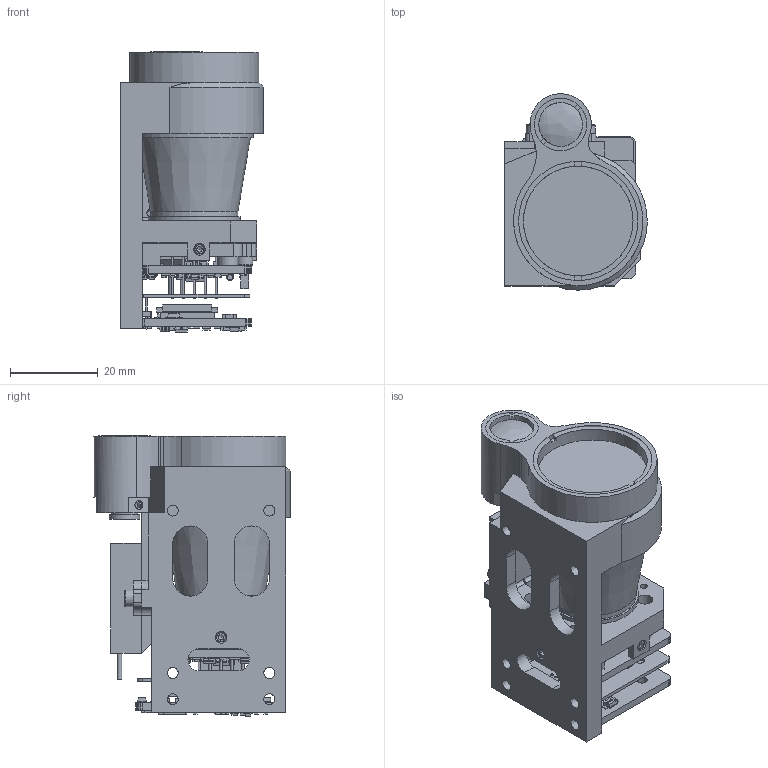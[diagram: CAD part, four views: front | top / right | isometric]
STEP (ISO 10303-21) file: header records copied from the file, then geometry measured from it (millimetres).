
FILE_DESCRIPTION (( 'STEP AP214' ), '1' );
FILE_NAME ('GTX3.0-25X（20231215）(一体式).STEP', '2023-12-14T23:48:08', ( 'Microsoft' ), ( 'Microsoft' ), 'SwSTEP 2.0', 'SolidWorks 2020', '' );
FILE_SCHEMA (( 'AUTOMOTIVE_DESIGN' ));
Length unit declared in the file: millimetre
Products named in the file (315): R0603(BP-1______)(alongside)^R4(BP-1______)(alongside)_BP1-V2-______-11.STEP.STEP.STEP.STEP.STEP; R0603(BP-1______)(alongside)^R18(BP-1______)(alongside)_BP1-V2-_______2.STEP.STEP.STEP.STEP.STEP; R0603(BP-1______)(alongside)^R2(BP-1______)(alongside)_BP1-V2-______-10.STEP.STEP.STEP.STEP.STEP; R0603_2(BP-1______)(alongside)^R1_2(BP-1______)(alongside)_BP-1-QD-V2-3(BP-1______)(alongside)_Free-Models(BP-1______)(alongside)_BP1-V2-_______2.STEP.STEP.STEP.STEP.STEP; ________20221225.STEP.STEP.STEP.STEP.STEP; C1(BP-1______)(alongside)^BP1-V2-______.STEP.STEP.STEP.STEP.STEP; R19(BP-1______)(alongside)^BP1-V2-______.STEP.STEP.STEP.STEP.STEP; R0603(BP-1______)(alongside)^R5(BP-1______)(alongside)_BP1-V2-______.STEP.STEP.STEP.STEP.STEP; CAP0402(BP-1______)(alongside)^C17(BP-1______)(alongside)_BP1-V2-______.STEP.STEP.STEP.STEP.STEP; R1206(BP-1______)(alongside)^R15_3(BP-1______)(alongside)_BP-1-QD-V2-3(BP-1______)(alongside)_Free-Models(BP-1______)(alongside)_BP1-V2-_______2.STEP.STEP.STEP.STEP.STEP; CAP_0603(1608)(BP-1______)(alongside)^C19(BP-1______)(alongside)_BP1-V2-______.STEP.STEP.STEP.STEP.STEP; R0603(BP-1______)(alongside)^R22(BP-1______)(alongside)_BP1-V2-______-22.STEP.STEP.STEP.STEP.STEP; R0603(BP-1______)(alongside)^R9(BP-1______)(alongside)_BP1-V2-______-14.STEP.STEP.STEP.STEP.STEP; R0603(BP-1______)(alongside)^R5(BP-1______)(alongside)_BP1-V2-_______2.STEP.STEP.STEP.STEP.STEP; SOT-26A-6(BP-1______)(alongside)^D3(BP-1______)(alongside)_BP1-V2-______.STEP.STEP.STEP.STEP.STEP; R0603_2(BP-1______)(alongside)^R13(BP-1______)(alongside)_BP-1-QD-V2-3(BP-1______)(alongside)_Free-Models(BP-1______)(alongside)_BP1-V2-______.STEP.STEP.STEP.STEP.STEP; R8(BP-1______)(alongside)^BP1-V2-______.STEP.STEP.STEP.STEP.STEP; R0603(BP-1______)(alongside)^R3(BP-1______)(alongside)_BP1-V2-______-17.STEP.STEP.STEP.STEP.STEP; ________________.STEP.STEP.STEP.STEP.STEP; APD-GD6510Y(BP-1______)(alongside)^APD(BP-1______)(alongside)_BP1-V2-______.STEP.STEP.STEP.STEP.STEP; CT2(BP-1______)(alongside)^BP1-V2-______.STEP.STEP.STEP.STEP.STEP; R0603_2(BP-1______)(alongside)^R12_2(BP-1______)(alongside)_BP-1-QD-V2-3(BP-1______)(alongside)_Free-Models(BP-1______)(alongside)_BP1-V2-______.STEP.STEP.STEP.STEP.STEP; U2_2(BP-1______)(alongside)^BP-1-QD-V2-3(BP-1______)(alongside)_Free-Models(BP-1______)(alongside)_BP1-V2-______.STEP.STEP.STEP.STEP.STEP; R0603(BP-1______)(alongside)^R2(BP-1______)(alongside)_BP1-V2-_______2.STEP.STEP.STEP.STEP.STEP; R0603_2(BP-1______)(alongside)^R10_3(BP-1______)(alongside)_BP-1-QD-V2-3(BP-1______)(alongside)_Free-Models(BP-1______)(alongside)_BP1-V2-______-35.STEP.STEP.STEP.STEP.STEP; R0603_2(BP-1______)(alongside)^R4_2(BP-1______)(alongside)_BP-1-QD-V2-3(BP-1______)(alongside)_Free-Models(BP-1______)(alongside)_BP1-V2-______.STEP.STEP.STEP.STEP.STEP; Pad008(BP-1______)(alongside)^DFN8-5X6(BP-1______)(alongside)_D5_2(BP-1______)(alongside)_BP-1-QD-V2-3(BP-1______)(alongside)_Free-Models(BP-1______)(alongside)_BP1-V2-______.STEP.STEP.STEP.STEP.STEP; Board(BP-1______)(alongside)^BP1-V2-______.STEP.STEP.STEP.STEP.STEP; R0603(BP-1______)(alongside)^R11(BP-1______)(alongside)_BP1-V2-______-12.STEP.STEP.STEP.STEP.STEP; R0603_2(BP-1______)(alongside)^Rs(BP-1______)(alongside)_BP-1-QD-V2-3(BP-1______)(alongside)_Free-Models(BP-1______)(alongside)_BP1-V2-______.STEP.STEP.STEP.STEP.STEP; Header__1X7-1.27-3D____(BP-1______)(alongside)^XS1(BP-1______)(alongside)_BP1-V2-______.STEP.STEP.STEP.STEP.STEP; APD(BP-1______)(alongside)^BP1-V2-______.STEP.STEP.STEP.STEP.STEP; C3(BP-1______)(alongside)^BP1-V2-______.STEP.STEP.STEP.STEP.STEP; Board_2(BP-1______)(alongside)^154-3225______V1(BP-1______)(alongside)_Free-Models(BP-1______)(alongside)_BP1-V2-______.STEP.STEP.STEP.STEP.STEP; ________.STEP.STEP.STEP.STEP.STEP; R0603(BP-1______)(alongside)^R6(BP-1______)(alongside)_BP1-V2-______-15.STEP.STEP.STEP.STEP.STEP; C02(BP-1______)(alongside)^BP-1-QD-V2-3(BP-1______)(alongside)_Free-Models(BP-1______)(alongside)_BP1-V2-______.STEP.STEP.STEP.STEP.STEP; Pad001(BP-1______)(alongside)^DFN8-5X6(BP-1______)(alongside)_D5_2(BP-1______)(alongside)_BP-1-QD-V2-3(BP-1______)(alongside)_Free-Models(BP-1______)(alongside)_BP1-V2-______.STEP.STEP.STEP.STEP.STEP; C20(BP-1______)(alongside)^BP1-V2-______.STEP.STEP.STEP.STEP.STEP; ______-SOD123W(BP-1______)(alongside)^D2_3(BP-1______)(alongside)_BP-1-QD-V2-3(BP-1______)(alongside)_Free-Models(BP-1______)(alongside)_BP1-V2-______.STEP.STEP.STEP.STEP.STEP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
Assembly tree (327 placements, depth 7):
  GTX3.0-25X（20231215）(一体式)
    BP1-V2-______.STEP.STEP.STEP.STEP.STEP
      C21(BP-1______)(alongside)^BP1-V2-______.STEP.STEP.STEP.STEP.STEP
        CAP_0603(1608)(BP-1______)(alongside)^C21(BP-1______)(alongside)_BP1-V2-______.STEP.STEP.STEP.STEP.STEP
      RS4(BP-1______)(alongside)^BP1-V2-______.STEP.STEP.STEP.STEP.STEP
        R0603(BP-1______)(alongside)^RS4(BP-1______)(alongside)_BP1-V2-______.STEP.STEP.STEP.STEP.STEP
          R0603(BP-1______)(alongside)^RS4(BP-1______)(alongside)_BP1-V2-______-0.STEP.STEP.STEP.STEP.STEP
          R0603(BP-1______)(alongside)^RS4(BP-1______)(alongside)_BP1-V2-_______2.STEP.STEP.STEP.STEP.STEP
      RS3(BP-1______)(alongside)^BP1-V2-______.STEP.STEP.STEP.STEP.STEP
        R0603(BP-1______)(alongside)^RS3(BP-1______)(alongside)_BP1-V2-______.STEP.STEP.STEP.STEP.STEP
          R0603(BP-1______)(alongside)^RS3(BP-1______)(alongside)_BP1-V2-______-1.STEP.STEP.STEP.STEP.STEP
          R0603(BP-1______)(alongside)^RS3(BP-1______)(alongside)_BP1-V2-_______2.STEP.STEP.STEP.STEP.STEP
      RS2(BP-1______)(alongside)^BP1-V2-______.STEP.STEP.STEP.STEP.STEP
        R0603(BP-1______)(alongside)^RS2(BP-1______)(alongside)_BP1-V2-______.STEP.STEP.STEP.STEP.STEP
          R0603(BP-1______)(alongside)^RS2(BP-1______)(alongside)_BP1-V2-_______2.STEP.STEP.STEP.STEP.STEP
          R0603(BP-1______)(alongside)^RS2(BP-1______)(alongside)_BP1-V2-______-2.STEP.STEP.STEP.STEP.STEP
      R0(BP-1______)(alongside)^BP1-V2-______.STEP.STEP.STEP.STEP.STEP
        R0603(BP-1______)(alongside)^R0(BP-1______)(alongside)_BP1-V2-______.STEP.STEP.STEP.STEP.STEP
          R0603(BP-1______)(alongside)^R0(BP-1______)(alongside)_BP1-V2-______-3.STEP.STEP.STEP.STEP.STEP
          R0603(BP-1______)(alongside)^R0(BP-1______)(alongside)_BP1-V2-_______2.STEP.STEP.STEP.STEP.STEP
      APD(BP-1______)(alongside)^BP1-V2-______.STEP.STEP.STEP.STEP.STEP
        APD-GD6510Y(BP-1______)(alongside)^APD(BP-1______)(alongside)_BP1-V2-______.STEP.STEP.STEP.STEP.STEP
      R5(BP-1______)(alongside)^BP1-V2-______.STEP.STEP.STEP.STEP.STEP
        R0603(BP-1______)(alongside)^R5(BP-1______)(alongside)_BP1-V2-______.STEP.STEP.STEP.STEP.STEP
          R0603(BP-1______)(alongside)^R5(BP-1______)(alongside)_BP1-V2-______-4.STEP.STEP.STEP.STEP.STEP
          R0603(BP-1______)(alongside)^R5(BP-1______)(alongside)_BP1-V2-_______2.STEP.STEP.STEP.STEP.STEP
      C6(BP-1______)(alongside)^BP1-V2-______.STEP.STEP.STEP.STEP.STEP
        CAP_0603(1608)(BP-1______)(alongside)^C6(BP-1______)(alongside)_BP1-V2-______.STEP.STEP.STEP.STEP.STEP
      R15(BP-1______)(alongside)^BP1-V2-______.STEP.STEP.STEP.STEP.STEP
        R0603(BP-1______)(alongside)^R15(BP-1______)(alongside)_BP1-V2-______.STEP.STEP.STEP.STEP.STEP
          R0603(BP-1______)(alongside)^R15(BP-1______)(alongside)_BP1-V2-_______2.STEP.STEP.STEP.STEP.STEP
          R0603(BP-1______)(alongside)^R15(BP-1______)(alongside)_BP1-V2-______-5.STEP.STEP.STEP.STEP.STEP
      C3(BP-1______)(alongside)^BP1-V2-______.STEP.STEP.STEP.STEP.STEP
        CAP_0603(1608)(BP-1______)(alongside)^C3(BP-1______)(alongside)_BP1-V2-______.STEP.STEP.STEP.STEP.STEP
      C4(BP-1______)(alongside)^BP1-V2-______.STEP.STEP.STEP.STEP.STEP
        CAP_0603(1608)(BP-1______)(alongside)^C4(BP-1______)(alongside)_BP1-V2-______.STEP.STEP.STEP.STEP.STEP
      D5(BP-1______)(alongside)^BP1-V2-______.STEP.STEP.STEP.STEP.STEP
        User_Library-SOT23-5-2(BP-1______)(alongside)^D5(BP-1______)(alongside)_BP1-V2-______.STEP.STEP.STEP.STEP.STEP
      R8(BP-1______)(alongside)^BP1-V2-______.STEP.STEP.STEP.STEP.STEP
        R0603(BP-1______)(alongside)^R8(BP-1______)(alongside)_BP1-V2-______.STEP.STEP.STEP.STEP.STEP
          R0603(BP-1______)(alongside)^R8(BP-1______)(alongside)_BP1-V2-_______2.STEP.STEP.STEP.STEP.STEP
          R0603(BP-1______)(alongside)^R8(BP-1______)(alongside)_BP1-V2-______-6.STEP.STEP.STEP.STEP.STEP
      R7(BP-1______)(alongside)^BP1-V2-______.STEP.STEP.STEP.STEP.STEP
        R0603(BP-1______)(alongside)^R7(BP-1______)(alongside)_BP1-V2-______.STEP.STEP.STEP.STEP.STEP
          R0603(BP-1______)(alongside)^R7(BP-1______)(alongside)_BP1-V2-_______2.STEP.STEP.STEP.STEP.STEP
          R0603(BP-1______)(alongside)^R7(BP-1______)(alongside)_BP1-V2-______-7.STEP.STEP.STEP.STEP.STEP
      R10(BP-1______)(alongside)^BP1-V2-______.STEP.STEP.STEP.STEP.STEP
        R0603(BP-1______)(alongside)^R10(BP-1______)(alongside)_BP1-V2-______.STEP.STEP.STEP.STEP.STEP
          R0603(BP-1______)(alongside)^R10(BP-1______)(alongside)_BP1-V2-______-8.STEP.STEP.STEP.STEP.STEP
          R0603(BP-1______)(alongside)^R10(BP-1______)(alongside)_BP1-V2-_______2.STEP.STEP.STEP.STEP.STEP
      D1(BP-1______)(alongside)^BP1-V2-______.STEP.STEP.STEP.STEP.STEP
        SOIC-8(BP-1______)(alongside)^D1(BP-1______)(alongside)_BP1-V2-______.STEP.STEP.STEP.STEP.STEP
      R1(BP-1______)(alongside)^BP1-V2-______.STEP.STEP.STEP.STEP.STEP
        R0603(BP-1______)(alongside)^R1(BP-1______)(alongside)_BP1-V2-______.STEP.STEP.STEP.STEP.STEP
          R0603(BP-1______)(alongside)^R1(BP-1______)(alongside)_BP1-V2-______-9.STEP.STEP.STEP.STEP.STEP
          R0603(BP-1______)(alongside)^R1(BP-1______)(alongside)_BP1-V2-_______2.STEP.STEP.STEP.STEP.STEP
      C8(BP-1______)(alongside)^BP1-V2-______.STEP.STEP.STEP.STEP.STEP
        CAP0402(BP-1______)(alongside)^C8(BP-1______)(alongside)_BP1-V2-______.STEP.STEP.STEP.STEP.STEP
      Q1(BP-1______)(alongside)^BP1-V2-______.STEP.STEP.STEP.STEP.STEP
        ______-SOT23-3(BP-1______)(alongside)^Q1(BP-1______)(alongside)_BP1-V2-______.STEP.STEP.STEP.STEP.STEP
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Bounding box: 32.49 x 44.74 x 63.83 mm (x, y, z)
Surface area: 35310.9 mm2 (no closed solid volume)
Topology: 0 solids, 192 shells, 6094 faces, 15293 edges, 10039 vertices
Faces by surface type: plane 3377, bspline 2072, cylinder 570, cone 75
Full cylindrical faces by diameter (mm): 0.1 x3, 0.2 x1, 0.33 x9, 0.5 x12, 0.6 x5, 0.65 x12, 0.7 x5, 0.9 x2, 1 x4, 1.2 x2, 1.4 x12, 1.45 x4, 1.452 x2, 1.6 x15, 2 x8, 2.05 x7, 2.2 x13, 2.293 x1, 2.3 x4, 2.4 x3, 2.5 x15, 2.9 x2, 3 x1, 3.5 x1, 3.8 x7, 4 x3, 4.5 x3, 4.65 x1, 4.7 x1, 5 x2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
Entity records: 420984 total; most frequent: CARTESIAN_POINT 228325, ORIENTED_EDGE 28789, DIRECTION 19600, EDGE_CURVE 14422, VERTEX_POINT 9660, VECTOR 8850, LINE 8850, EDGE_LOOP 6810
